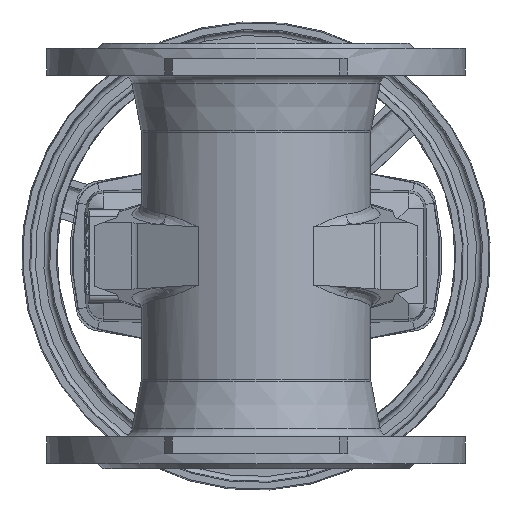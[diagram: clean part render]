
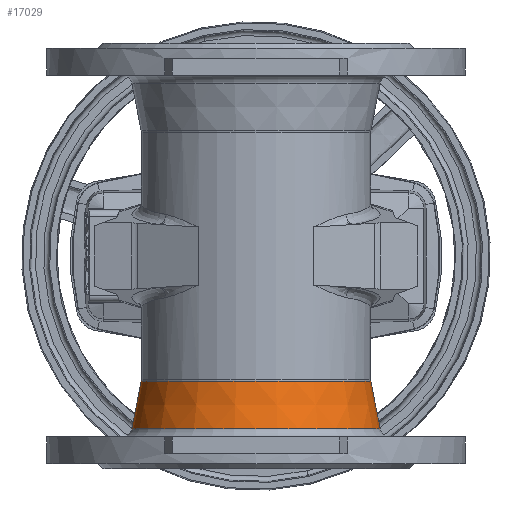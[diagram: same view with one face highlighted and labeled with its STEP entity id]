
A CAD part, front view. The second image highlights one B-rep face of the part: STEP entity #17029.
In plain terms, the highlighted conical face has half-angle 11 degrees and reference radius 74.11 mm.
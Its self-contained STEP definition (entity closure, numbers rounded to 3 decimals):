
#127 = EDGE_CURVE ( 'Defeatured_0_317+Defeatured_0_300+Defeatured_0_319+Defeatured_0_324', #16870, #7668, #1988, .T. ) ;
#541 = EDGE_CURVE ( 'NONE', #16870, #3630, #21514, .T. ) ;
#781 = CARTESIAN_POINT ( 'NONE',  ( 74.11, 0., -103.145 ) ) ;
#1052 = DIRECTION ( 'NONE',  ( 1., 0., 0. ) ) ;
#1146 = CONICAL_SURFACE ( 'NONE', #12944, 74.11, 0.192 ) ;
#1988 = CIRCLE ( 'NONE', #19330, 68.61 ) ;
#2514 = EDGE_CURVE ( 'Defeatured_0_300+Defeatured_0_301+Defeatured_0_319+Defeatured_0_324', #3630, #12462, #18100, .T. ) ;
#2599 = ORIENTED_EDGE ( 'NONE', *, *, #2928, .F. ) ;
#2928 = EDGE_CURVE ( 'NONE', #7668, #12462, #13504, .T. ) ;
#3630 = VERTEX_POINT ( 'NONE', #9874 ) ;
#4506 = CARTESIAN_POINT ( 'NONE',  ( 74.11, 0., -103.145 ) ) ;
#5000 = DIRECTION ( 'NONE',  ( 0., 0., 1. ) ) ;
#5275 = ORIENTED_EDGE ( 'NONE', *, *, #2514, .T. ) ;
#6625 = AXIS2_PLACEMENT_3D ( 'NONE', #11740, #18801, #13821 ) ;
#7668 = VERTEX_POINT ( 'NONE', #22154 ) ;
#8815 = ORIENTED_EDGE ( 'NONE', *, *, #541, .T. ) ;
#8892 = CARTESIAN_POINT ( 'NONE',  ( -74.11, 0., -103.145 ) ) ;
#9289 = EDGE_LOOP ( 'NONE', ( #22392, #8815, #5275, #2599 ) ) ;
#9600 = VECTOR ( 'NONE', #10154, 1000. ) ;
#9813 = CARTESIAN_POINT ( 'NONE',  ( 0., 0., -103.145 ) ) ;
#9847 = DIRECTION ( 'NONE',  ( 1., 0., 0. ) ) ;
#9874 = CARTESIAN_POINT ( 'NONE',  ( -74.11, 0., -103.145 ) ) ;
#9958 = CARTESIAN_POINT ( 'NONE',  ( 0., 0., -74.85 ) ) ;
#10154 = DIRECTION ( 'NONE',  ( 0.191, 0., -0.982 ) ) ;
#11569 = FACE_OUTER_BOUND ( 'NONE', #9289, .T. ) ;
#11740 = CARTESIAN_POINT ( 'NONE',  ( 0., 0., -103.145 ) ) ;
#12016 = CARTESIAN_POINT ( 'NONE',  ( -68.61, 0., -74.85 ) ) ;
#12462 = VERTEX_POINT ( 'NONE', #781 ) ;
#12944 = AXIS2_PLACEMENT_3D ( 'NONE', #9813, #16872, #1052 ) ;
#13504 = LINE ( 'NONE', #4506, #9600 ) ;
#13821 = DIRECTION ( 'NONE',  ( 1., 0., 0. ) ) ;
#16870 = VERTEX_POINT ( 'NONE', #12016 ) ;
#16872 = DIRECTION ( 'NONE',  ( 0., 0., -1. ) ) ;
#17029 = ADVANCED_FACE ( 'Defeatured_0_300', ( #11569 ), #1146, .T. ) ;
#17929 = DIRECTION ( 'NONE',  ( -0.191, 0., -0.982 ) ) ;
#18100 = CIRCLE ( 'NONE', #6625, 74.11 ) ;
#18801 = DIRECTION ( 'NONE',  ( 0., 0., 1. ) ) ;
#19330 = AXIS2_PLACEMENT_3D ( 'NONE', #9958, #5000, #9847 ) ;
#19697 = VECTOR ( 'NONE', #17929, 1000. ) ;
#21514 = LINE ( 'NONE', #8892, #19697 ) ;
#22154 = CARTESIAN_POINT ( 'NONE',  ( 68.61, 0., -74.85 ) ) ;
#22392 = ORIENTED_EDGE ( 'NONE', *, *, #127, .F. ) ;
